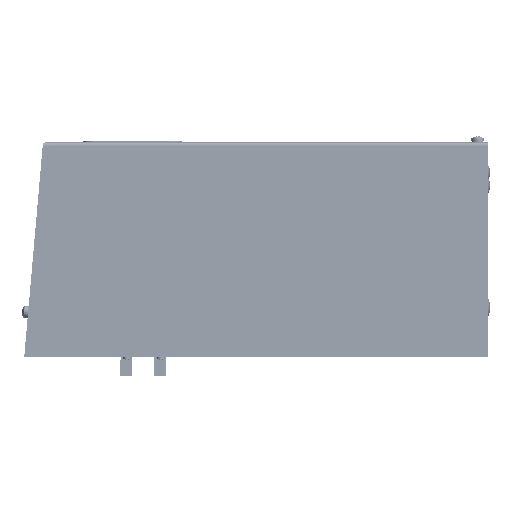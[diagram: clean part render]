
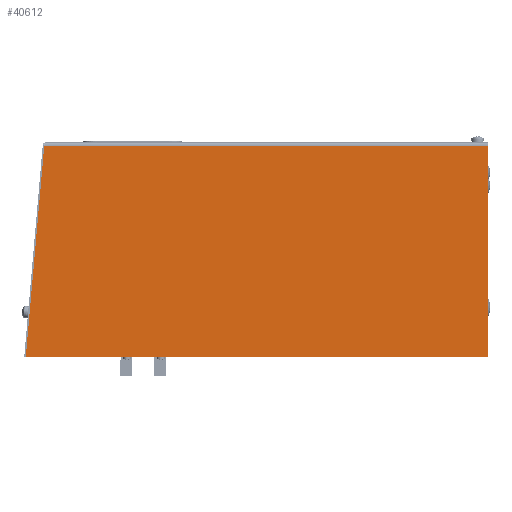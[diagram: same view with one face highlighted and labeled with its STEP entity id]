
A CAD part, left-side view. The second image highlights one B-rep face of the part: STEP entity #40612.
In plain terms, the highlighted planar face has unit normal (-1, 0, 0).
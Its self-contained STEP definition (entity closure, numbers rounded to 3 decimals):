
#35956 = DIRECTION ( 'NONE',  ( 0., -1., 0. ) ) ;
#35957 = VECTOR ( 'NONE', #35956, 1000. ) ;
#35958 = CARTESIAN_POINT ( 'NONE',  ( -247.5, -0.5, 136. ) ) ;
#35959 = LINE ( 'NONE', #35958, #35957 ) ;
#38768 = CARTESIAN_POINT ( 'NONE',  ( -247.5, 287.671, 136. ) ) ;
#38810 = CARTESIAN_POINT ( 'NONE',  ( -247.5, -0.5, 136. ) ) ;
#38866 = DIRECTION ( 'NONE',  ( 0., 0., -1. ) ) ;
#38867 = VECTOR ( 'NONE', #38866, 1000. ) ;
#38869 = CARTESIAN_POINT ( 'NONE',  ( -247.5, -0.5, -1.166 ) ) ;
#38871 = LINE ( 'NONE', #38869, #38867 ) ;
#38939 = CARTESIAN_POINT ( 'NONE',  ( -247.5, 299.672, -1.166 ) ) ;
#38940 = DIRECTION ( 'NONE',  ( 0., 1., 0. ) ) ;
#38941 = VECTOR ( 'NONE', #38940, 1000. ) ;
#38943 = CARTESIAN_POINT ( 'NONE',  ( -247.5, 299.672, -1.166 ) ) ;
#38944 = LINE ( 'NONE', #38943, #38941 ) ;
#38949 = CARTESIAN_POINT ( 'NONE',  ( -247.5, -0.5, -1.166 ) ) ;
#38964 = DIRECTION ( 'NONE',  ( 0., -0.087, 0.996 ) ) ;
#38966 = VECTOR ( 'NONE', #38964, 1000. ) ;
#38967 = CARTESIAN_POINT ( 'NONE',  ( -247.5, 287.584, 137. ) ) ;
#38968 = LINE ( 'NONE', #38967, #38966 ) ;
#38970 = DIRECTION ( 'NONE',  ( 0., 0., -1. ) ) ;
#38972 = DIRECTION ( 'NONE',  ( 1., 0., 0. ) ) ;
#38975 = CARTESIAN_POINT ( 'NONE',  ( -247.5, -0.5, 137. ) ) ;
#38977 = AXIS2_PLACEMENT_3D ( 'NONE', #38975, #38972, #38970 ) ;
#38979 = PLANE ( 'NONE',  #38977 ) ;
#38981 = FACE_OUTER_BOUND ( 'NONE', #40617, .T. ) ;
#40422 = EDGE_CURVE ( 'NONE', #40444, #40476, #35959, .T. ) ;
#40444 = VERTEX_POINT ( 'NONE', #38768 ) ;
#40476 = VERTEX_POINT ( 'NONE', #38810 ) ;
#40514 = EDGE_CURVE ( 'NONE', #40476, #40535, #38871, .T. ) ;
#40535 = VERTEX_POINT ( 'NONE', #38949 ) ;
#40539 = EDGE_CURVE ( 'NONE', #40535, #40540, #38944, .T. ) ;
#40540 = VERTEX_POINT ( 'NONE', #38939 ) ;
#40612 = ADVANCED_FACE ( 'NONE', ( #38981 ), #38979, .F. ) ;
#40617 = EDGE_LOOP ( 'NONE', ( #40619, #40620, #40625, #40627 ) ) ;
#40619 = ORIENTED_EDGE ( 'NONE', *, *, #40422, .F. ) ;
#40620 = ORIENTED_EDGE ( 'NONE', *, *, #40622, .F. ) ;
#40622 = EDGE_CURVE ( 'NONE', #40540, #40444, #38968, .T. ) ;
#40625 = ORIENTED_EDGE ( 'NONE', *, *, #40539, .F. ) ;
#40627 = ORIENTED_EDGE ( 'NONE', *, *, #40514, .F. ) ;
